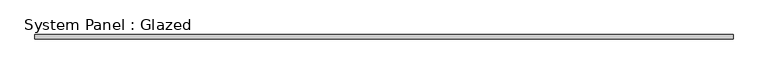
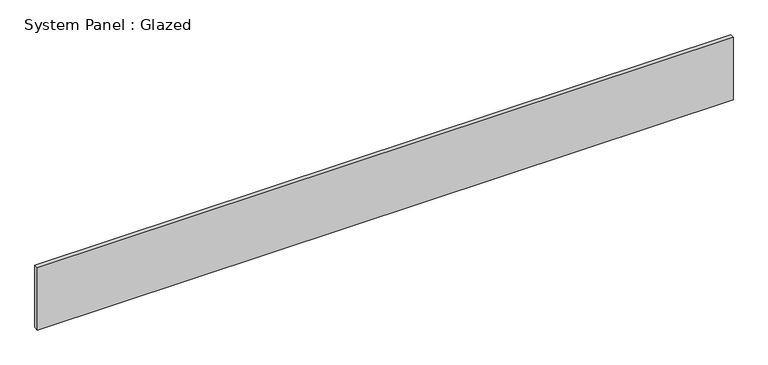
"""IFC4 building model written with IfcOpenShell, lengths in millimetres: plate geometry, System Panel : Glazed."""

from ifc_helpers import new_model, si_unit, origin, origin_with_axes, place, context, project, spatial, polyline, outline, extrude, source, transform, mapped, element, save


def system_panel_glazed_d4f08671(model_context):
    return source(origin(), model_context, "Body", "SweptSolid", [
        extrude(outline(polyline([(1975.0, 24.5), (-1975.0, 24.5), (-1975.0, 49.5), (1975.0, 49.5), (1975.0, 24.5)])), origin_with_axes(), (0.0, 0.0, 1.0), 373.4924443),
    ])


if __name__ == "__main__":
    model = new_model("IFC4")
    model_context = context("Model", 3, world=origin())
    ifc_project = project(units=[si_unit("LENGTHUNIT", "METRE", prefix="MILLI")], contexts=[model_context])
    site = spatial("IfcSite", under=ifc_project)
    building = spatial("IfcBuilding", under=site)
    placement = place(None, origin())
    system_panel_glazed_shape = system_panel_glazed_d4f08671(model_context)
    element("IfcPlate", 1, ObjectType="System Panel : Glazed", at=placement, inside=building, context=model_context, shape_type="MappedRepresentation", body=[
        mapped(system_panel_glazed_shape, transform((0.0, 0.0, 0.0), x_axis=(1.0, 0.0, 0.0), y_axis=(0.0, 1.0, 0.0), z_axis=(0.0, 0.0, 1.0))),
    ])
    save(model, "model.ifc")
